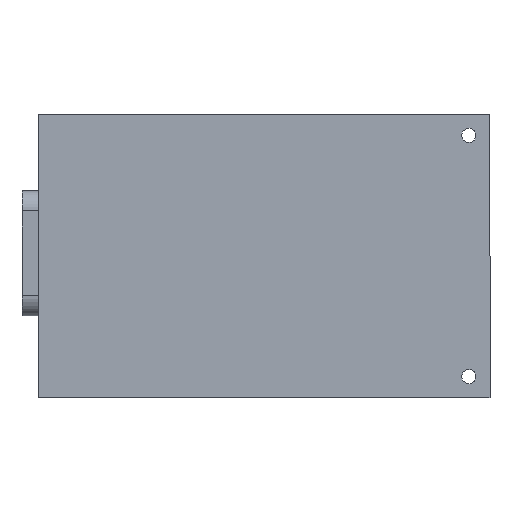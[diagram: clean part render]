
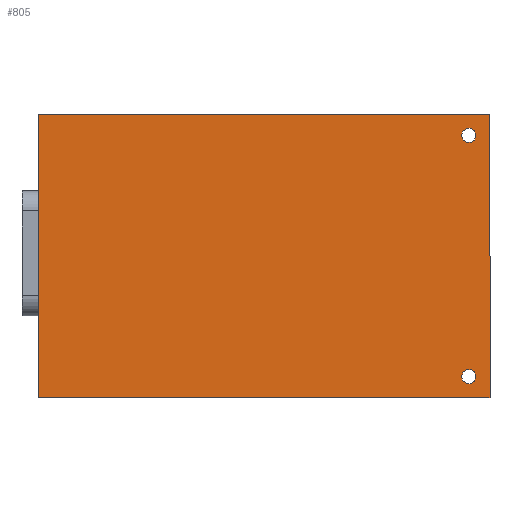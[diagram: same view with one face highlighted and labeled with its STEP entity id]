
A CAD part, front view. The second image highlights one B-rep face of the part: STEP entity #805.
In plain terms, the highlighted planar face has unit normal (0, -1, 0).
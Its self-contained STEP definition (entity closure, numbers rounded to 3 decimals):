
#1 = DIRECTION ( 'NONE',  ( -1., 0., 0. ) ) ;
#60 = CARTESIAN_POINT ( 'NONE',  ( -16., 0., -10.05 ) ) ;
#86 = EDGE_LOOP ( 'NONE', ( #381, #296, #932, #1105 ) ) ;
#163 = LINE ( 'NONE', #1013, #816 ) ;
#286 = VERTEX_POINT ( 'NONE', #2524 ) ;
#296 = ORIENTED_EDGE ( 'NONE', *, *, #2645, .F. ) ;
#303 = CARTESIAN_POINT ( 'NONE',  ( 16., 0., 10.05 ) ) ;
#334 = CARTESIAN_POINT ( 'NONE',  ( 14.5, 0., 8.55 ) ) ;
#379 = VECTOR ( 'NONE', #1615, 1000. ) ;
#381 = ORIENTED_EDGE ( 'NONE', *, *, #1773, .F. ) ;
#397 = EDGE_CURVE ( 'NONE', #1883, #903, #2041, .T. ) ;
#412 = CARTESIAN_POINT ( 'NONE',  ( -16., 0., 10.05 ) ) ;
#498 = ORIENTED_EDGE ( 'NONE', *, *, #1781, .T. ) ;
#597 = DIRECTION ( 'NONE',  ( 0., 0., 1. ) ) ;
#648 = AXIS2_PLACEMENT_3D ( 'NONE', #1132, #1955, #2149 ) ;
#705 = FACE_BOUND ( 'NONE', #2494, .T. ) ;
#796 = VERTEX_POINT ( 'NONE', #60 ) ;
#801 = EDGE_CURVE ( 'NONE', #286, #286, #1679, .T. ) ;
#805 = ADVANCED_FACE ( 'NONE', ( #705, #1143, #943 ), #1939, .T. ) ;
#807 = DIRECTION ( 'NONE',  ( 0., 0., -1. ) ) ;
#816 = VECTOR ( 'NONE', #597, 1000. ) ;
#902 = AXIS2_PLACEMENT_3D ( 'NONE', #334, #2660, #807 ) ;
#903 = VERTEX_POINT ( 'NONE', #974 ) ;
#932 = ORIENTED_EDGE ( 'NONE', *, *, #397, .F. ) ;
#943 = FACE_OUTER_BOUND ( 'NONE', #86, .T. ) ;
#974 = CARTESIAN_POINT ( 'NONE',  ( 16., 0., -10.05 ) ) ;
#998 = AXIS2_PLACEMENT_3D ( 'NONE', #1750, #2544, #1722 ) ;
#1010 = CARTESIAN_POINT ( 'NONE',  ( 16., 0., -10.05 ) ) ;
#1013 = CARTESIAN_POINT ( 'NONE',  ( -16., 0., -10.05 ) ) ;
#1078 = CIRCLE ( 'NONE', #902, 0.5 ) ;
#1105 = ORIENTED_EDGE ( 'NONE', *, *, #2521, .F. ) ;
#1132 = CARTESIAN_POINT ( 'NONE',  ( 0., 0., 0. ) ) ;
#1143 = FACE_BOUND ( 'NONE', #1325, .T. ) ;
#1325 = EDGE_LOOP ( 'NONE', ( #498 ) ) ;
#1464 = CARTESIAN_POINT ( 'NONE',  ( 16., 0., -10.05 ) ) ;
#1615 = DIRECTION ( 'NONE',  ( 1., 0., 0. ) ) ;
#1679 = CIRCLE ( 'NONE', #998, 0.5 ) ;
#1722 = DIRECTION ( 'NONE',  ( 0., 0., -1. ) ) ;
#1750 = CARTESIAN_POINT ( 'NONE',  ( 14.5, 0., -8.55 ) ) ;
#1773 = EDGE_CURVE ( 'NONE', #796, #2199, #163, .T. ) ;
#1781 = EDGE_CURVE ( 'NONE', #2564, #2564, #1078, .T. ) ;
#1794 = VECTOR ( 'NONE', #1, 1000. ) ;
#1866 = CARTESIAN_POINT ( 'NONE',  ( 16., 0., 10.05 ) ) ;
#1882 = LINE ( 'NONE', #1464, #1794 ) ;
#1883 = VERTEX_POINT ( 'NONE', #1866 ) ;
#1939 = PLANE ( 'NONE',  #648 ) ;
#1950 = CARTESIAN_POINT ( 'NONE',  ( 14.5, 0., 8.05 ) ) ;
#1955 = DIRECTION ( 'NONE',  ( 0., -1., 0. ) ) ;
#2041 = LINE ( 'NONE', #1010, #2577 ) ;
#2149 = DIRECTION ( 'NONE',  ( 0., 0., -1. ) ) ;
#2157 = ORIENTED_EDGE ( 'NONE', *, *, #801, .T. ) ;
#2199 = VERTEX_POINT ( 'NONE', #412 ) ;
#2223 = LINE ( 'NONE', #303, #379 ) ;
#2494 = EDGE_LOOP ( 'NONE', ( #2157 ) ) ;
#2521 = EDGE_CURVE ( 'NONE', #2199, #1883, #2223, .T. ) ;
#2524 = CARTESIAN_POINT ( 'NONE',  ( 14.5, 0., -9.05 ) ) ;
#2544 = DIRECTION ( 'NONE',  ( 0., 1., 0. ) ) ;
#2564 = VERTEX_POINT ( 'NONE', #1950 ) ;
#2577 = VECTOR ( 'NONE', #2658, 1000. ) ;
#2645 = EDGE_CURVE ( 'NONE', #903, #796, #1882, .T. ) ;
#2658 = DIRECTION ( 'NONE',  ( 0., 0., -1. ) ) ;
#2660 = DIRECTION ( 'NONE',  ( 0., 1., 0. ) ) ;
